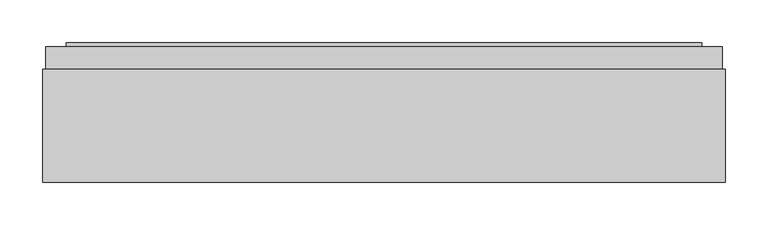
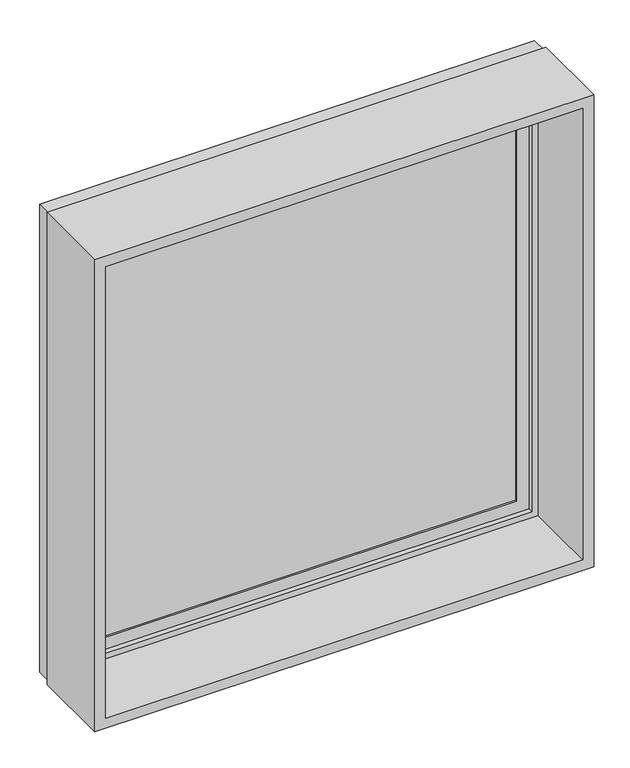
"""IFC4 building model written with IfcOpenShell, lengths in millimetres: plate geometry, SCISSOR PANEL : SCISSOR PANEL."""

from ifc_helpers import new_model, si_unit, frame, origin, place, context, project, spatial, polyline, outline, extrude, faceted_brep, source, transform, mapped, element, save


def plate_2eab96cd(model_context):
    return source(origin(), model_context, "Body", "SolidModel", [
        extrude(outline(polyline([(800.0, -400.0), (0.0, -400.0), (0.0, 400.0), (800.0, 400.0), (800.0, -400.0)]), holes=[polyline([(17.5, -382.5), (782.5, -382.5), (782.5, 382.5), (17.5, 382.5), (17.5, -382.5)])]), frame((0.0, 0.0, 0.0), z_axis=(0.0, 1.0, 0.0), x_axis=(0.0, 0.0, 1.0)), (0.0, 0.0, 1.0), 132.5),
        extrude(outline(polyline([(-369.5, 160.5), (369.5, 160.5), (369.5, 135.5), (-369.5, 135.5), (-369.5, 160.5)])), frame((0.0, 0.0, 30.5), z_axis=(0.0, 0.0, 1.0), x_axis=(1.0, 0.0, 0.0)), (0.0, 0.0, 1.0), 739.0),
        faceted_brep([(-352.5, 135.5, 752.5), (-352.5, 132.5, 752.5), (-352.5, 132.5, 47.5), (-352.5, 135.5, 47.5), (-369.5, 160.5, 769.5), (-369.5, 135.5, 769.5), (-369.5, 135.5, 30.5), (-369.5, 160.5, 30.5), (-352.5, 163.5, 752.5), (-352.5, 160.5, 752.5), (-352.5, 160.5, 47.5), (-352.5, 163.5, 47.5), (-372.5, 132.5, 772.5), (-372.5, 163.5, 772.5), (-372.5, 163.5, 27.5), (-372.5, 132.5, 27.5), (352.5, 132.5, 47.5), (352.5, 135.5, 47.5), (369.5, 135.5, 30.5), (369.5, 160.5, 30.5), (352.5, 160.5, 47.5), (352.5, 163.5, 47.5), (372.5, 163.5, 27.5), (372.5, 132.5, 27.5), (352.5, 132.5, 752.5), (352.5, 135.5, 752.5), (369.5, 135.5, 769.5), (369.5, 160.5, 769.5), (352.5, 160.5, 752.5), (352.5, 163.5, 752.5), (372.5, 163.5, 772.5), (372.5, 132.5, 772.5)], [[[0, 1, 2, 3]], [[4, 5, 6, 7]], [[8, 9, 10, 11]], [[12, 13, 14, 15]], [[3, 2, 16, 17]], [[7, 6, 18, 19]], [[11, 10, 20, 21]], [[15, 14, 22, 23]], [[17, 16, 24, 25]], [[19, 18, 26, 27]], [[21, 20, 28, 29]], [[23, 22, 30, 31]], [[15, 23, 31, 12], [1, 24, 16, 2]], [[25, 24, 1, 0]], [[5, 26, 18, 6], [3, 17, 25, 0]], [[27, 26, 5, 4]], [[7, 19, 27, 4], [9, 28, 20, 10]], [[29, 28, 9, 8]], [[13, 30, 22, 14], [11, 21, 29, 8]], [[31, 30, 13, 12]]]),
        faceted_brep([(-396.5, 132.5, 796.5), (-396.5, 158.75, 796.5), (-396.5, 158.75, 3.5), (-396.5, 132.5, 3.5), (-389.5, 150.0, 789.5), (-389.5, 132.5, 789.5), (-389.5, 132.5, 10.5), (-389.5, 150.0, 10.5), (-382.5, 123.75, 782.5), (-382.5, 150.0, 782.5), (-382.5, 150.0, 17.5), (-382.5, 123.75, 17.5), (-372.5, 158.75, 772.5), (-372.5, 123.75, 772.5), (-372.5, 123.75, 27.5), (-372.5, 158.75, 27.5), (396.5, 158.75, 3.5), (396.5, 132.5, 3.5), (389.5, 132.5, 10.5), (389.5, 150.0, 10.5), (382.5, 150.0, 17.5), (382.5, 123.75, 17.5), (372.5, 123.75, 27.5), (372.5, 158.75, 27.5), (396.5, 158.75, 796.5), (396.5, 132.5, 796.5), (389.5, 132.5, 789.5), (389.5, 150.0, 789.5), (382.5, 150.0, 782.5), (382.5, 123.75, 782.5), (372.5, 123.75, 772.5), (372.5, 158.75, 772.5)], [[[0, 1, 2, 3]], [[4, 5, 6, 7]], [[8, 9, 10, 11]], [[12, 13, 14, 15]], [[3, 2, 16, 17]], [[7, 6, 18, 19]], [[11, 10, 20, 21]], [[15, 14, 22, 23]], [[17, 16, 24, 25]], [[19, 18, 26, 27]], [[21, 20, 28, 29]], [[23, 22, 30, 31]], [[25, 24, 1, 0]], [[3, 17, 25, 0], [5, 26, 18, 6]], [[27, 26, 5, 4]], [[7, 19, 27, 4], [9, 28, 20, 10]], [[29, 28, 9, 8]], [[11, 21, 29, 8], [13, 30, 22, 14]], [[31, 30, 13, 12]], [[1, 24, 16, 2], [15, 23, 31, 12]]]),
        extrude(outline(polyline([(789.5, -389.5), (10.5, -389.5), (10.5, 389.5), (789.5, 389.5), (789.5, -389.5)]), holes=[polyline([(782.5, -382.5), (782.5, 382.5), (17.5, 382.5), (17.5, -382.5), (782.5, -382.5)])]), frame((0.0, 132.5, 0.0), z_axis=(0.0, 1.0, 0.0), x_axis=(0.0, 0.0, 1.0)), (0.0, 0.0, 1.0), 17.5),
    ])


if __name__ == "__main__":
    model = new_model("IFC4")
    model_context = context("Model", 3, world=origin())
    ifc_project = project(units=[si_unit("LENGTHUNIT", "METRE", prefix="MILLI")], contexts=[model_context])
    site = spatial("IfcSite", under=ifc_project)
    building = spatial("IfcBuilding", under=site)
    placement = place(None, origin())
    plate_shape = plate_2eab96cd(model_context)
    element("IfcPlate", 1, ObjectType="SCISSOR PANEL : SCISSOR PANEL", at=placement, inside=building, context=model_context, shape_type="MappedRepresentation", body=[
        mapped(plate_shape, transform((0.0, 0.0, 0.0), x_axis=(1.0, 0.0, 0.0), y_axis=(0.0, 1.0, 0.0), z_axis=(0.0, 0.0, 1.0))),
    ])
    save(model, "model.ifc")
